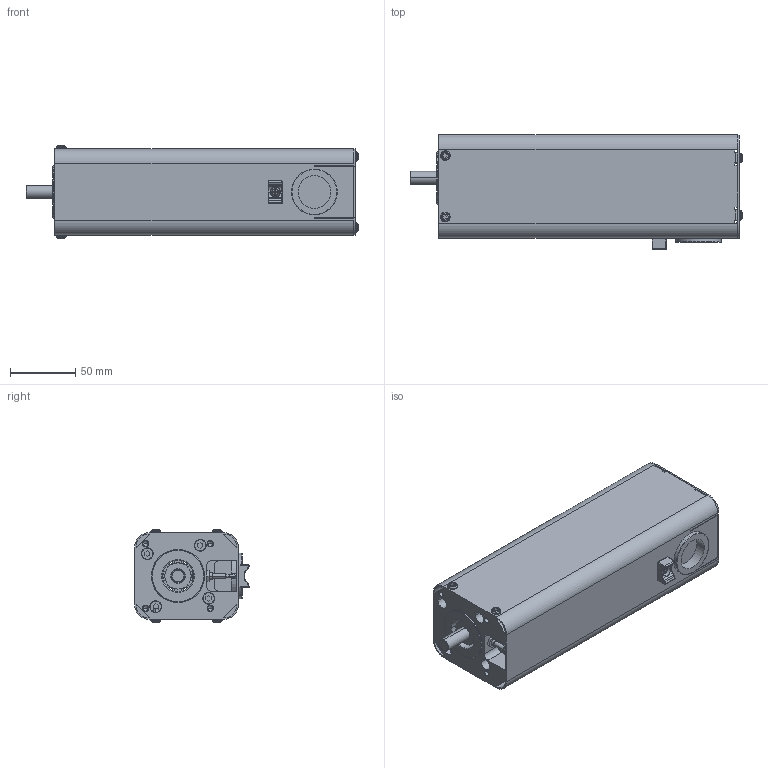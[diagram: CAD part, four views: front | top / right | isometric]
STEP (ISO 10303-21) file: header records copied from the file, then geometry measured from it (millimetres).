
FILE_DESCRIPTION((''),'2;1');
FILE_NAME('BE00D-RH-F_N_IGS_PRT','2017-06-17T',(' '),(''),'PRO/ENGINEER BY PARAMETRIC TECHNOLOGY CORPORATION, 2015030','PRO/ENGINEER BY PARAMETRIC TECHNOLOGY CORPORATION, 2015030','');
FILE_SCHEMA(('CONFIG_CONTROL_DESIGN'));
Length unit declared in the file: millimetre
Products named in the file (1): BE00D-RH-F_N_IGS_PRT
Bounding box: 254.2 x 87.9 x 70.8 mm (x, y, z)
Volume: 178406.1 mm3; surface area: 160685.4 mm2
Topology: 2 solids, 40 shells, 668 faces, 1665 edges, 1065 vertices
Faces by surface type: cylinder 299, plane 273, torus 40, cone 30, sphere 24, bspline 2
Entity records: 20386 total; most frequent: CARTESIAN_POINT 3893, DIRECTION 3653, ORIENTED_EDGE 3178, EDGE_CURVE 1651, AXIS2_PLACEMENT_3D 1391, VERTEX_POINT 1065, VECTOR 871, LINE 871
